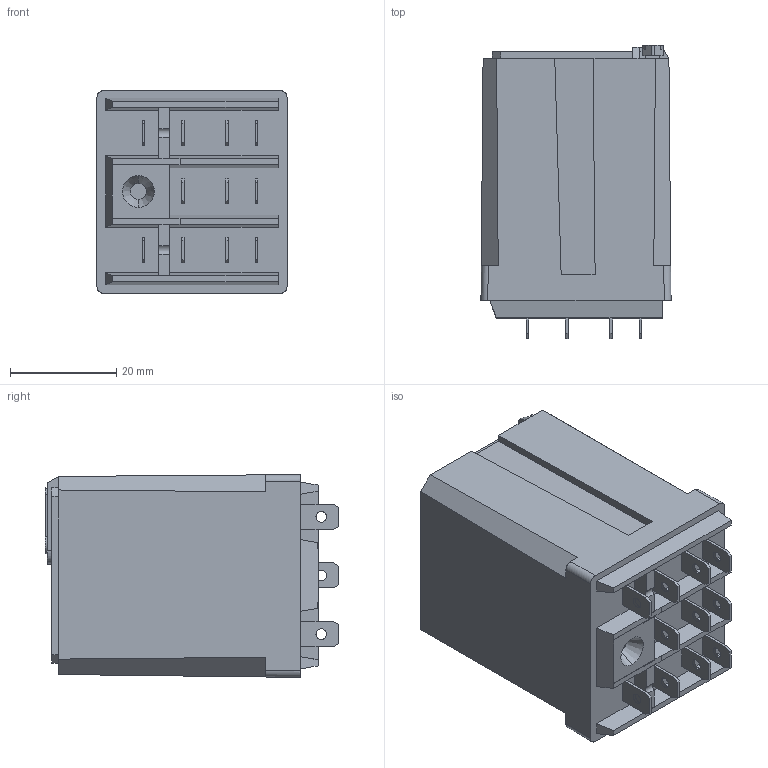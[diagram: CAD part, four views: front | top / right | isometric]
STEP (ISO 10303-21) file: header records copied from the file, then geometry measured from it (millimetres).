
FILE_DESCRIPTION((''),'2;1');
FILE_NAME('46801-783-HB33_SW0001','2017-09-29T',('mguelmi'),('Rockwell Automation'),'PRO/ENGINEER BY PARAMETRIC TECHNOLOGY CORPORATION, 2012480','PRO/ENGINEER BY PARAMETRIC TECHNOLOGY CORPORATION, 2012480','');
FILE_SCHEMA(('CONFIG_CONTROL_DESIGN'));
Length unit declared in the file: inch
Products named in the file (1): 46801-783-HB33_SW0001
Bounding box: 35.8 x 55.3 x 38.2 mm (x, y, z)
Surface area: 12157.9 mm2 (no closed solid volume)
Topology: 0 solids, 4 shells, 187 faces, 611 edges, 424 vertices
Faces by surface type: plane 168, cylinder 17, bspline 2
Entity records: 6792 total; most frequent: CARTESIAN_POINT 1378, ORIENTED_EDGE 1060, DIRECTION 1036, EDGE_CURVE 611, VECTOR 540, LINE 540, VERTEX_POINT 424, AXIS2_PLACEMENT_3D 248
